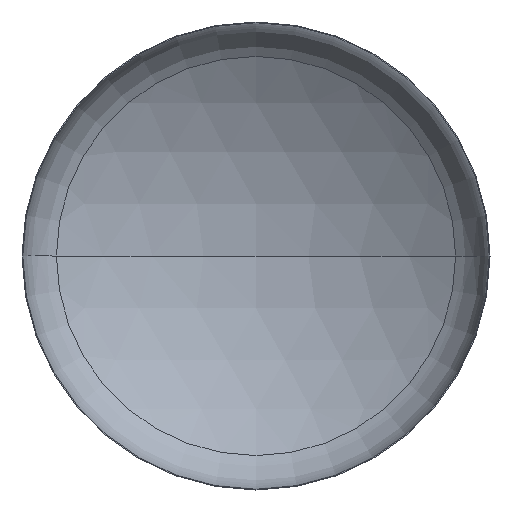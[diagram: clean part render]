
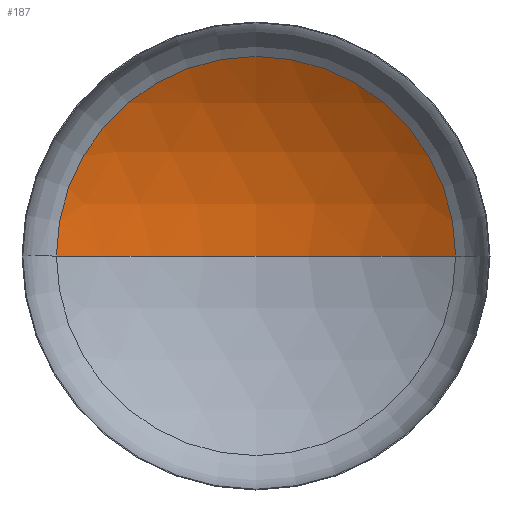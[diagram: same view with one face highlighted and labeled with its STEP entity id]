
A CAD part, front view. The second image highlights one B-rep face of the part: STEP entity #187.
In plain terms, the highlighted spherical face has radius 5600 mm.
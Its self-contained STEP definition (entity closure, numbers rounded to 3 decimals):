
#1 = DIRECTION ( 'NONE',  ( 0., 0., 1. ) ) ;
#5 = CIRCLE ( 'NONE', #74, 2984.602 ) ;
#13 = CARTESIAN_POINT ( 'NONE',  ( 0., -3784.542, 0. ) ) ;
#38 = AXIS2_PLACEMENT_3D ( 'NONE', #164, #239, #174 ) ;
#54 = VERTEX_POINT ( 'NONE', #254 ) ;
#67 = AXIS2_PLACEMENT_3D ( 'NONE', #13, #1, #262 ) ;
#68 = AXIS2_PLACEMENT_3D ( 'NONE', #359, #356, #354 ) ;
#74 = AXIS2_PLACEMENT_3D ( 'NONE', #215, #194, #199 ) ;
#89 = CARTESIAN_POINT ( 'NONE',  ( -2984.602, 953.829, 0. ) ) ;
#95 = VERTEX_POINT ( 'NONE', #231 ) ;
#108 = ORIENTED_EDGE ( 'NONE', *, *, #143, .T. ) ;
#121 = ORIENTED_EDGE ( 'NONE', *, *, #150, .T. ) ;
#143 = EDGE_CURVE ( 'NONE', #95, #162, #5, .T. ) ;
#148 = EDGE_LOOP ( 'NONE', ( #160, #121, #108 ) ) ;
#150 = EDGE_CURVE ( 'NONE', #54, #95, #238, .T. ) ;
#152 = EDGE_CURVE ( 'NONE', #54, #162, #176, .T. ) ;
#160 = ORIENTED_EDGE ( 'NONE', *, *, #152, .F. ) ;
#162 = VERTEX_POINT ( 'NONE', #89 ) ;
#164 = CARTESIAN_POINT ( 'NONE',  ( 0., -3784.542, 0. ) ) ;
#174 = DIRECTION ( 'NONE',  ( -1., 0., 0. ) ) ;
#176 = CIRCLE ( 'NONE', #67, 5600. ) ;
#187 = ADVANCED_FACE ( 'NONE', ( #233 ), #403, .F. ) ;
#194 = DIRECTION ( 'NONE',  ( 0., -1., 0. ) ) ;
#199 = DIRECTION ( 'NONE',  ( 1., 0., 0. ) ) ;
#215 = CARTESIAN_POINT ( 'NONE',  ( 0., 953.829, 0. ) ) ;
#231 = CARTESIAN_POINT ( 'NONE',  ( 2984.602, 953.829, 0. ) ) ;
#233 = FACE_OUTER_BOUND ( 'NONE', #148, .T. ) ;
#238 = CIRCLE ( 'NONE', #68, 5600. ) ;
#239 = DIRECTION ( 'NONE',  ( 0., 0., -1. ) ) ;
#254 = CARTESIAN_POINT ( 'NONE',  ( 0., 1815.458, 0. ) ) ;
#262 = DIRECTION ( 'NONE',  ( 1., 0., 0. ) ) ;
#354 = DIRECTION ( 'NONE',  ( -1., 0., 0. ) ) ;
#356 = DIRECTION ( 'NONE',  ( 0., 0., -1. ) ) ;
#359 = CARTESIAN_POINT ( 'NONE',  ( 0., -3784.542, 0. ) ) ;
#403 = SPHERICAL_SURFACE ( 'NONE', #38, 5600. ) ;
